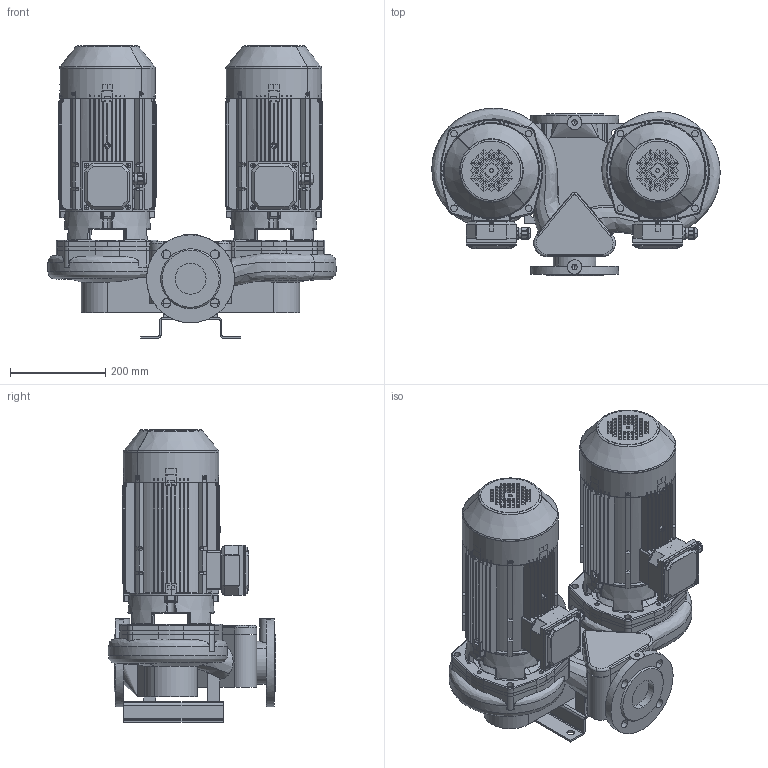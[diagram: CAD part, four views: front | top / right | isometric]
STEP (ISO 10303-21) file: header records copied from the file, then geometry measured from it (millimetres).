
FILE_DESCRIPTION(('STEP AP214'),'1');
FILE_NAME('export.stp','2018-05-30T07:49:37',(' '),(' '),'Spatial InterOp 3D',' ',' ');
FILE_SCHEMA(('AUTOMOTIVE_DESIGN { 1 0 10303 214 1 1 1 1 }'));
Length unit declared in the file: millimetre
Products named in the file (23): W_T65B2300_KP100; V_TLL65AB80A1102; V_PPT65AB; V_JALKA35973; 160027; 160005; V_MKP100-1_F19; 160141; 160137; 160138; 160139; 160140; Koura_Ale_M5; Plug_Blind_M20; Sealing_Plug_M20; DIN_7985-M5X8; DIN_7985-M5X12; 160059___; 160060___; 160136
Assembly tree (42 placements, depth 4):
  W_T65B2300_KP100
    V_TLL65AB80A1102  x2
    V_PPT65AB
    V_JALKA35973
    V_MKP100-1_F19
      160027
        160005
      160141
        160137
        160138
        160139
        160140
        Koura_Ale_M5
        Plug_Blind_M20
        Sealing_Plug_M20
        DIN_7985-M5X8
        DIN_7985-M5X12  x4
      160059___
      160060___
      160136
    V_MKP100-1_F19
      160027
        160005
      160141
        160137
        160138
        160139
        160140
        Koura_Ale_M5
        Plug_Blind_M20
        Sealing_Plug_M20
        DIN_7985-M5X8
        DIN_7985-M5X12  x4
      160059___
      160060___
      160136
Bounding box: 606.21 x 351.9 x 615 mm (x, y, z)
Volume: 20780417.7 mm3; surface area: 5468750.4 mm2
Topology: 38 solids, 38 shells, 4743 faces, 12678 edges, 8039 vertices
Faces by surface type: plane 2080, cylinder 1429, torus 482, bspline 440, cone 282, sphere 30
Entity records: 98562 total; most frequent: CARTESIAN_POINT 34044, ORIENTED_EDGE 13040, DIRECTION 12012, EDGE_CURVE 6520, AXIS2_PLACEMENT_3D 4477, VERTEX_POINT 4164, LINE 3058, VECTOR 3058
